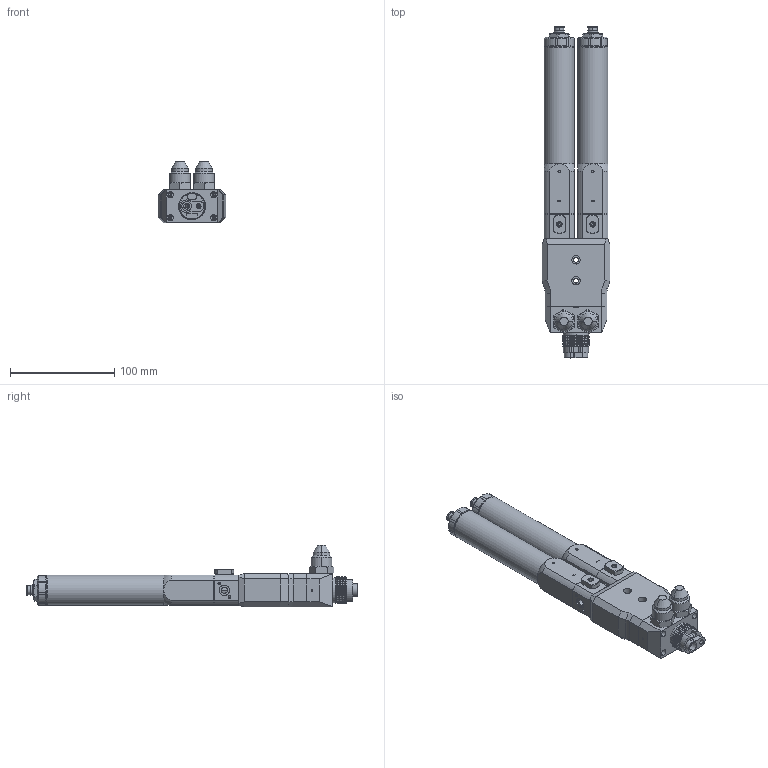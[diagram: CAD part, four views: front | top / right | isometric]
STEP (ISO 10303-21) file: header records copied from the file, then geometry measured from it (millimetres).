
FILE_DESCRIPTION (( 'STEP AP214' ), '1' );
FILE_NAME ('PDPM-500-150FB.STEP', '2024-10-11T12:15:47', ( '' ), ( '' ), 'SwSTEP 2.0', 'SolidWorks 2024', '' );
FILE_SCHEMA (( 'AUTOMOTIVE_DESIGN' ));
Length unit declared in the file: millimetre
Products named in the file (1): PDPM-500-150FB
Bounding box: 65 x 318 x 59.3 mm (x, y, z)
Volume: 469555.1 mm3; surface area: 105061.3 mm2
Topology: 12 solids, 12 shells, 1080 faces, 2625 edges, 1653 vertices
Faces by surface type: plane 436, cylinder 404, cone 211, torus 12, bspline 9, sphere 8
Full cylindrical faces by diameter (mm): 29 x2
Entity records: 39114 total; most frequent: CARTESIAN_POINT 14105, ORIENTED_EDGE 5182, DIRECTION 5161, EDGE_CURVE 2591, AXIS2_PLACEMENT_3D 2043, VERTEX_POINT 1653, EDGE_LOOP 1234, FACE_OUTER_BOUND 1082
